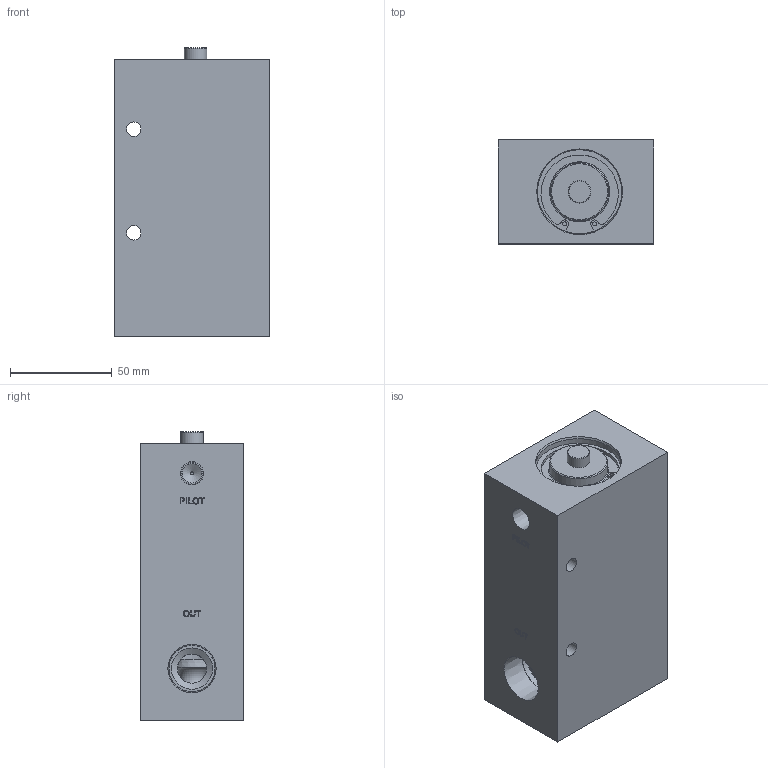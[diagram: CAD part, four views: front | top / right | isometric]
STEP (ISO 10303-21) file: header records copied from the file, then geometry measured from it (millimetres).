
FILE_DESCRIPTION(/* description */ (''),/* implementation_level */ '2;1');
FILE_NAME(/* name */ 'L:\ALADCO\Advertising\3D Content\Valves\Step Files - 2014-11-19 thru Present\30750X.stp',/* time_stamp */ '2014-11-19T14:28:17-06:00',/* author */ ('dmatz'),/* organization */ ('Aladdin Eng. & Manf. Inc.'),/* preprocessor_version */ 'ST-DEVELOPER v15.2',/* originating_system */ 'Autodesk Inventor 2014',/* authorisation */ '0 in^3');
FILE_SCHEMA (('AUTOMOTIVE_DESIGN { 1 0 10303 214 3 1 1 }'));
Length unit declared in the file: inch
Products named in the file (10): 311045; 311050; 1.312-1.25; 311058; 311047; 311021; 1.625-1.562; 311057; 311066; 307501
Bounding box: 76.2 x 50.8 x 141.6 mm (x, y, z)
Volume: 422743.8 mm3; surface area: 72858.8 mm2
Topology: 7 solids, 7 shells, 237 faces, 537 edges, 353 vertices
Faces by surface type: plane 117, cylinder 56, bspline 26, cone 20, torus 18
Full cylindrical faces by diameter (mm): 1.499 x1, 1.93 x4, 3.302 x1, 6.629 x1, 6.858 x1, 7.112 x2, 10.719 x1, 11.049 x2, 11.1 x2, 12.7 x1, 14.249 x1, 14.287 x2, 17.501 x1, 18.034 x1, 19.05 x2, 20.015 x1, 20.241 x2, 22.631 x2, 28.448 x1, 29.21 x1, 31.75 x1, 33.274 x2, 33.325 x3, 35.458 x1, 37.16 x1, 38.1 x1, 41.224 x2, 41.275 x2, 43.815 x1
Entity records: 6899 total; most frequent: CARTESIAN_POINT 1682, DIRECTION 976, ORIENTED_EDGE 858, EDGE_CURVE 429, EDGE_LOOP 382, AXIS2_PLACEMENT_3D 376, VERTEX_POINT 327, ADVANCED_FACE 237
